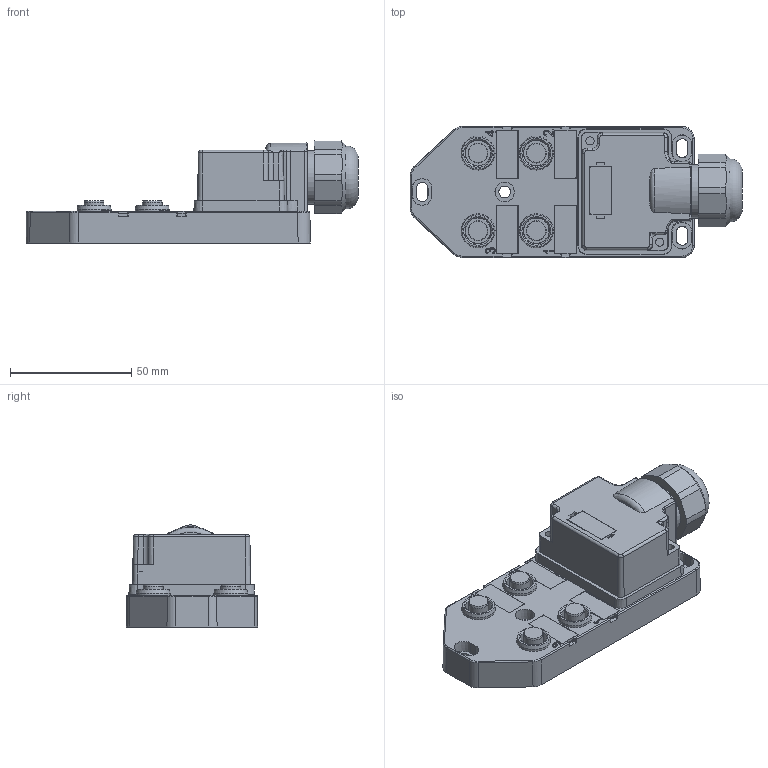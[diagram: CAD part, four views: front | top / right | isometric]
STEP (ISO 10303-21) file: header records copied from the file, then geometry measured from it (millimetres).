
FILE_DESCRIPTION((''),'2;1');
FILE_NAME('C:\Users\enrico\Desktop\Ale\Sito Web Mintec\AUTOMAZIONE_2020\FOTO & STEP Distributori passivi_ciabatte\A cablare\step\M12\ciabatta M12 4 vie a cablare con calotta.stp','2020-08-31T09:40:54',('Tecnico2'),(''),'Autodesk Inventor 2012','Autodesk Inventor 2012','');
FILE_SCHEMA(('AUTOMOTIVE_DESIGN { 1 0 10303 214 1 1 1 1 }'));
Length unit declared in the file: millimetre
Products named in the file (6): 47009-000; Ciab+4vie_M12_calotta_no led; 270101101_ins_fe NEUTRO; 0606725NI (ghiera femmina M12); 2701003BI targhettina ciabatte; 47600 calotta di connessione
Assembly tree (15 placements, depth 2):
  47009-000
    Ciab+4vie_M12_calotta_no led
    270101101_ins_fe NEUTRO  x4
    0606725NI (ghiera femmina M12)  x4
    2701003BI targhettina ciabatte  x5
    47600 calotta di connessione
Bounding box: 136.68 x 54 x 42 mm (x, y, z)
Volume: 66754.6 mm3; surface area: 60942.3 mm2
Topology: 15 solids, 28 shells, 1965 faces, 5321 edges, 3488 vertices
Faces by surface type: plane 1314, cylinder 308, cone 198, bspline 136, torus 9
Full cylindrical faces by diameter (mm): 0.876 x1, 4.8 x1, 5 x2, 8.2 x4, 10.8 x8, 13.7 x1, 14 x8, 17 x1, 22 x1
Entity records: 53701 total; most frequent: CARTESIAN_POINT 13956, ORIENTED_EDGE 8500, DIRECTION 7685, EDGE_CURVE 4250, VECTOR 3063, LINE 3063, VERTEX_POINT 2794, AXIS2_PLACEMENT_3D 2311
